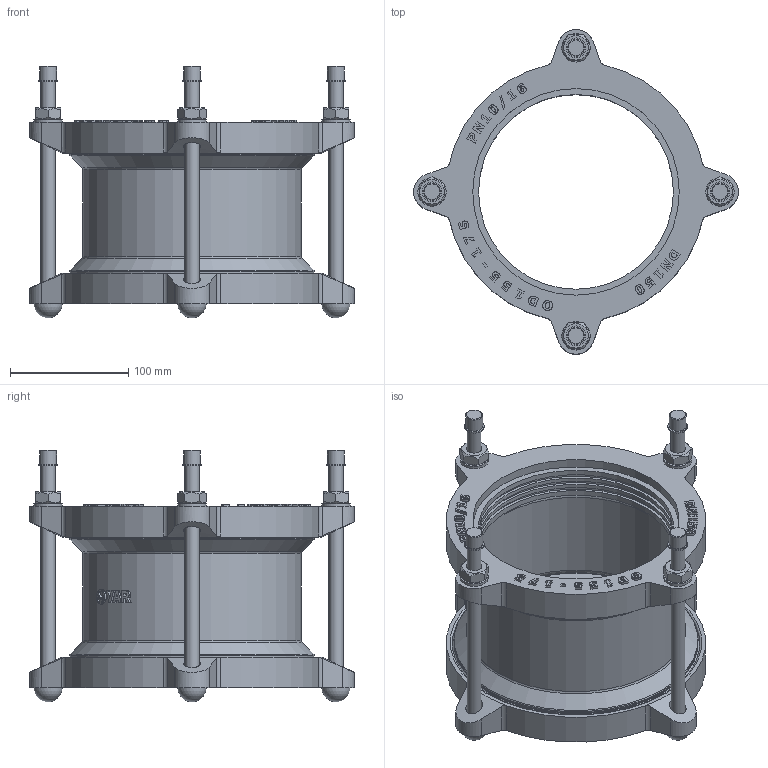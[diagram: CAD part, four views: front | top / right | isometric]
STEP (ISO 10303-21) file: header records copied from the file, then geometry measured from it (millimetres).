
FILE_DESCRIPTION(('STEP AP203'), '1');
FILE_NAME('Cîåäèíèòåëüíàÿ ìóôòà äëÿ æåñòêèõ òðóá', '', ('UNSPECIFIED'), ('UNSPECIFIED'), 'C3D Converter', 'C3D Toolkit', '');
FILE_SCHEMA(('CONFIG_CONTROL_DESIGN'));
Length unit declared in the file: millimetre
Assembly tree (21 placements, depth 2):
  (unnamed)
    (unnamed)
    (unnamed)  x4
    (unnamed)  x4
    (unnamed)  x4
    (unnamed)  x4
    (unnamed)
    (unnamed)
    (unnamed)  x2
Bounding box: 275 x 275 x 213.2 mm (x, y, z)
Volume: 1429644.7 mm3; surface area: 462329.8 mm2
Topology: 25 solids, 25 shells, 758 faces, 1906 edges, 1252 vertices
Faces by surface type: plane 307, extrusion 286, cylinder 105, cone 34, torus 22, sphere 4
Full cylindrical faces by diameter (mm): 12 x12, 12.253 x1, 13 x4, 14 x8, 14.4 x4, 16.8 x4, 24 x4, 165 x8, 170 x6, 175 x3, 180 x2, 185 x3, 207.5 x2, 210 x4
Entity records: 29900 total; most frequent: CARTESIAN_POINT 10495, ORIENTED_EDGE 3280, DIRECTION 2194, EDGE_CURVE 1640, VERTEX_POINT 1122, VECTOR 1098, B_SPLINE_CURVE_WITH_KNOTS 922, LINE 812
